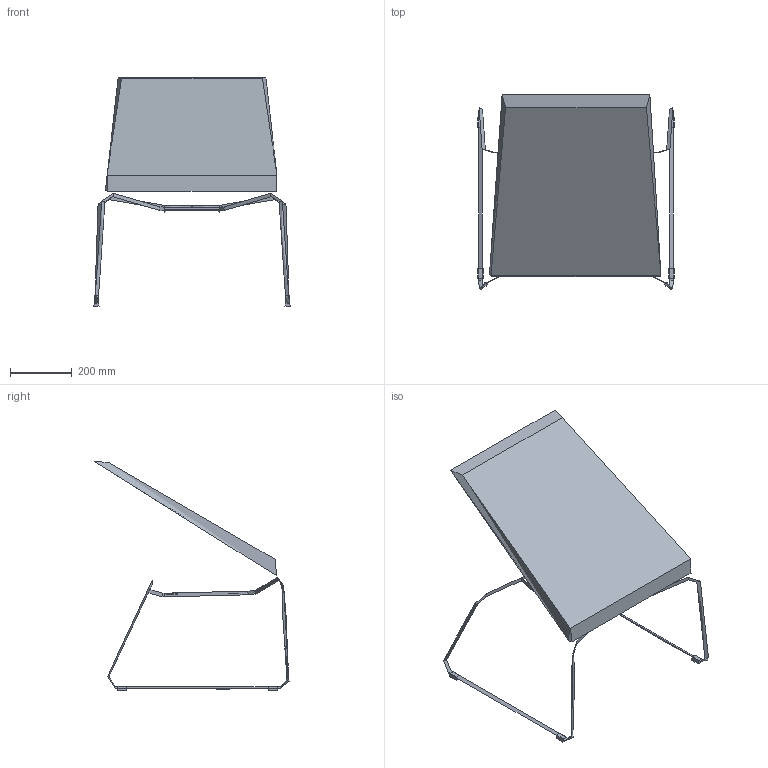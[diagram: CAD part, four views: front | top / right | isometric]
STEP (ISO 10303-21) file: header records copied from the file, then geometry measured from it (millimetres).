
FILE_DESCRIPTION(/* description */ (''),/* implementation_level */ '2;1');
FILE_NAME(/* name */ 'SKYK~1',/* time_stamp */ '2017-05-03T16:30:47+02:00',/* author */ (''),/* organization */ (''),/* preprocessor_version */ 'ST-DEVELOPER v15',/* originating_system */ '',/* authorisation */ '');
FILE_SCHEMA (('CONFIG_CONTROL_DESIGN'));
Length unit declared in the file: millimetre
Products named in the file (1): Document
Bounding box: 637 x 631.5 x 742.25 mm (x, y, z)
Volume: 36465054 mm3; surface area: 1278998.1 mm2
Topology: 7 solids, 9 shells, 98 faces, 203 edges, 118 vertices
Faces by surface type: bspline 62, plane 36
Entity records: 6442 total; most frequent: CARTESIAN_POINT 5134, ORIENTED_EDGE 392, EDGE_CURVE 200, VERTEX_POINT 116, ADVANCED_FACE 98, FACE_OUTER_BOUND 98, EDGE_LOOP 98, B_SPLINE_CURVE_WITH_KNOTS 73
